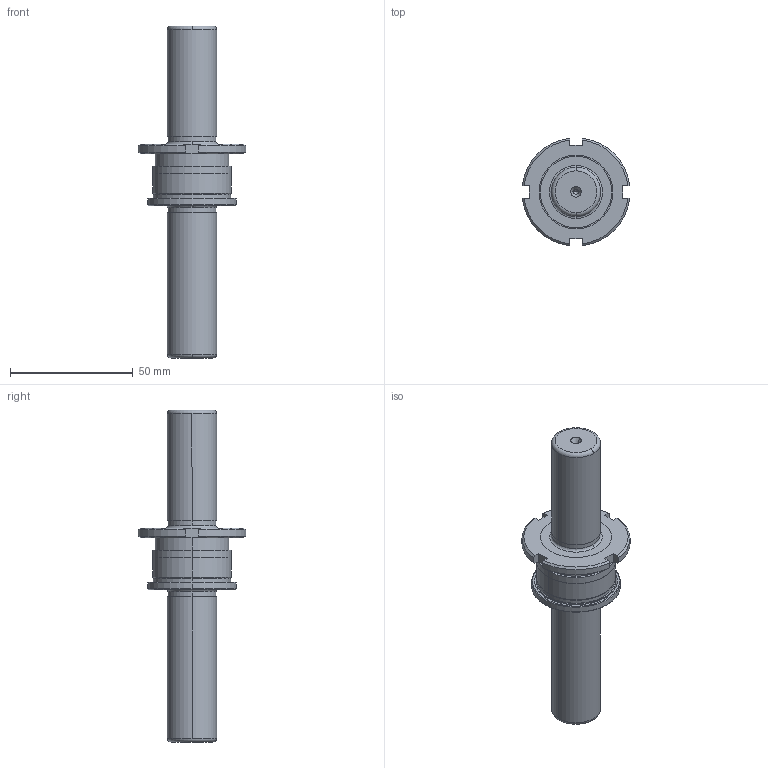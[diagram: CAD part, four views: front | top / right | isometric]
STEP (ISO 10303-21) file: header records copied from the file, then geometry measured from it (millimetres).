
FILE_DESCRIPTION((''),'2;1');
FILE_NAME('CMF_020_135.stp','2008-11-04T11:00:54',(''),(''),'Mechanical Desktop 2009','Mechanical Desktop 2009',', , ');
FILE_SCHEMA(('CONFIG_CONTROL_DESIGN'));
Length unit declared in the file: millimetre
Products named in the file (2): Product; blmdl1
Assembly tree (1 placements, depth 2):
  Product
    blmdl1
Bounding box: 43.72 x 43.72 x 135 mm (x, y, z)
Volume: 56928 mm3; surface area: 14154 mm2
Topology: 2 solids, 2 shells, 92 faces, 223 edges, 141 vertices
Faces by surface type: cylinder 30, cone 28, plane 24, bspline 6, torus 4
Entity records: 3035 total; most frequent: CARTESIAN_POINT 750, DIRECTION 496, ORIENTED_EDGE 438, EDGE_CURVE 219, AXIS2_PLACEMENT_3D 205, VERTEX_POINT 141, CIRCLE 117, EDGE_LOOP 104
